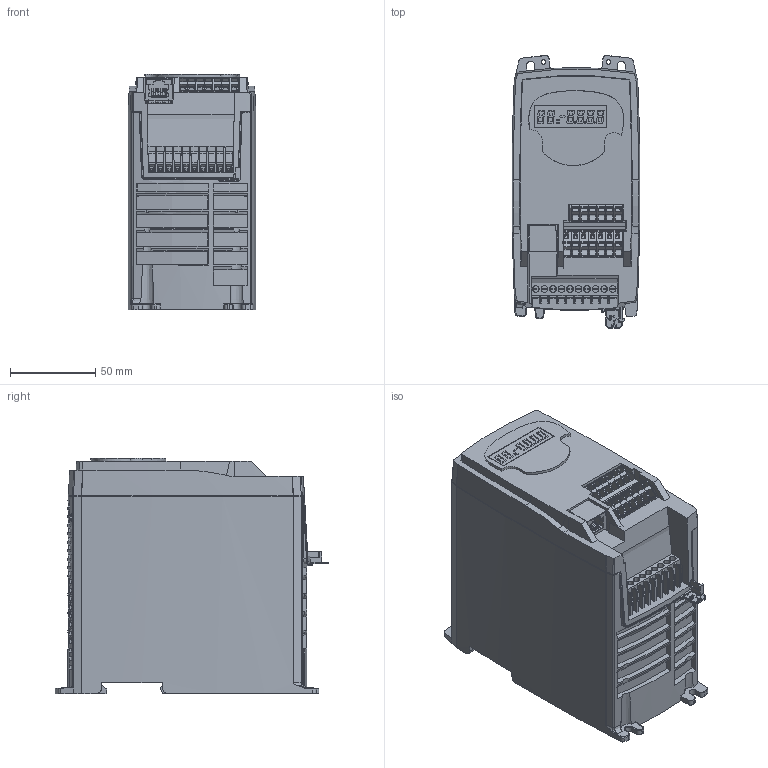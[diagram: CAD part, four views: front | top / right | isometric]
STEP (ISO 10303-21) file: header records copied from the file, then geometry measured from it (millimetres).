
FILE_DESCRIPTION((''),'2;1');
FILE_NAME('PK-SEQ-SK-A-BODY-NO-LOGISTICK','2006-12-19T',('summne01'),(''),'PRO/ENGINEER BY PARAMETRIC TECHNOLOGY CORPORATION, 2006320','PRO/ENGINEER BY PARAMETRIC TECHNOLOGY CORPORATION, 2006320','');
FILE_SCHEMA(('CONFIG_CONTROL_DESIGN'));
Products named in the file (1): PK-SEQ-SK-A-BODY-NO-LOGISTICK
Bounding box: 74.95 x 159.99 x 137.85 mm (x, y, z)
Surface area: 132559.8 mm2 (no closed solid volume)
Topology: 0 solids, 313 shells, 3047 faces, 11327 edges, 8409 vertices
Faces by surface type: plane 2208, cylinder 616, cone 142, bspline 48, torus 16, extrusion 13, revolution 3, sphere 1
Entity records: 123552 total; most frequent: CARTESIAN_POINT 31217, ORIENTED_EDGE 17840, DIRECTION 17387, EDGE_CURVE 11327, VECTOR 8594, LINE 8581, VERTEX_POINT 8409, AXIS2_PLACEMENT_3D 4395
